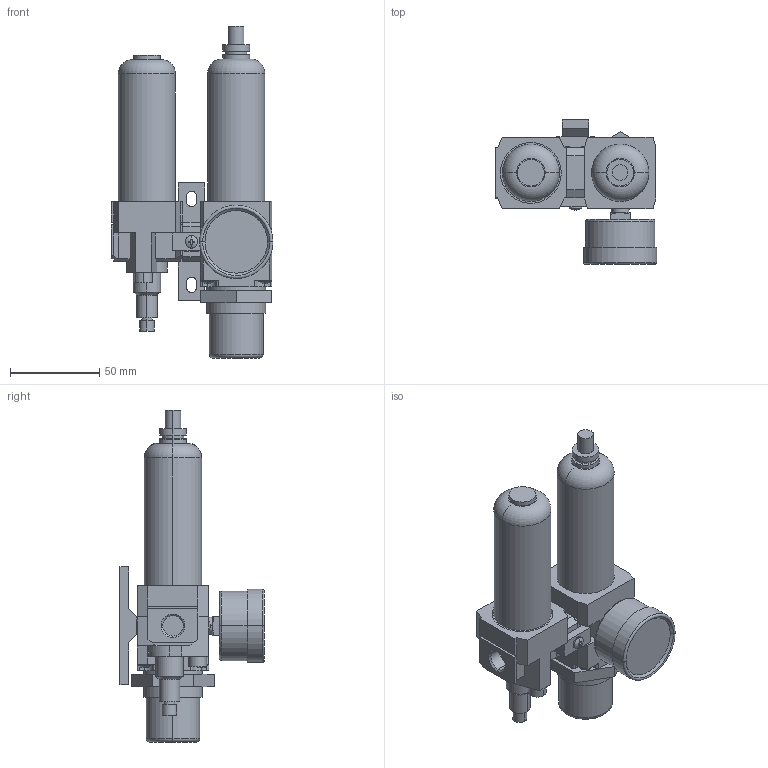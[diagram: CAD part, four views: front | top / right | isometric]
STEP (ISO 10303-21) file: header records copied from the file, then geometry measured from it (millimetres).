
FILE_DESCRIPTION (( 'STEP AP203' ), '1' );
FILE_NAME ('FRL200-02M-D.STEP', '2021-06-30T17:07:57', ( '' ), ( '' ), 'SwSTEP 2.0', 'SolidWorks 2019', '' );
FILE_SCHEMA (( 'CONFIG_CONTROL_DESIGN' ));
Length unit declared in the file: millimetre
Products named in the file (1): FRL200-02M-D
Bounding box: 90.5 x 80.7 x 185.8 mm (x, y, z)
Volume: 319714.2 mm3; surface area: 66152.7 mm2
Topology: 14 solids, 14 shells, 549 faces, 1307 edges, 835 vertices
Faces by surface type: plane 359, cylinder 118, cone 52, torus 10, sphere 10
Entity records: 16042 total; most frequent: CARTESIAN_POINT 2891, DIRECTION 2804, ORIENTED_EDGE 2614, EDGE_CURVE 1307, AXIS2_PLACEMENT_3D 959, VECTOR 886, LINE 886, VERTEX_POINT 835
